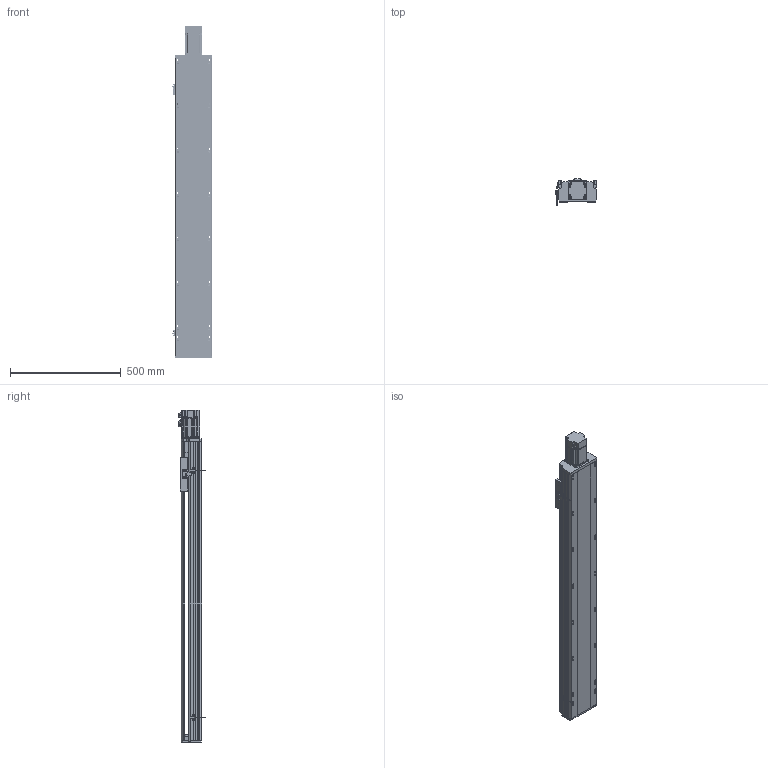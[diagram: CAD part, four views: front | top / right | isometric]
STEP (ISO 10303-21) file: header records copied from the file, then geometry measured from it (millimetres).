
FILE_DESCRIPTION (( 'STEP AP214' ), '1' );
FILE_NAME ('CTH170-1100.STEP', '2019-11-25T09:04:06', ( '微软用户' ), ( '微软中国' ), 'SwSTEP 2.0', 'SolidWorks 2017', '' );
FILE_SCHEMA (( 'AUTOMOTIVE_DESIGN' ));
Length unit declared in the file: millimetre
Products named in the file (32): M5-L20囀鞠褒蹟佪-BR L; M4-L10囀鞠褒蹟佪-BR L; M5-L10囀鞠褒蹟佪; 坶踡蹟簽M15x1; EGH20CA_BLOCK; 潔路遠COL15-A; EG20_RAIL; MISUMI_B7002-DB_盄俶絳砃粣; 170賑怢; BEARING_MISUMI_B7002-DB_盄俶絳砃粣; 170裔啣^CTH170-L10-200; 錨璃8^蚾饜极3_CTH170-L10-200; 錨璃2; 复件 轴承座^装配体3_CTH170-L10-200; 佪話盓傅釱^CTH170-L10-200; CTH170-1100; M5-L16囀鞠褒蹟佪; 遣喳蝶15x12x8-BR L; 支撑座^丝杠支撑座_CTH170-L10-200; B6002Z; _C-BSST2005_n; SFS2005-411-SZC; SFH2010佪裝; M3-L8囀鞠褒蹟佪; 80EMA-016A; EE-SX672峚倰換覜ん; 170萇儂啣; CT17耀郪-覜茼んえ; 170傷啣; M6-L20囀鞠褒蹟佪; EGH20CA; 蚾饜极3^CTH170-L10-200
Assembly tree (79 placements, depth 4):
  CTH170-1100
    錨璃2
    170裔啣^CTH170-L10-200
    170賑怢
    EGH20CA  x2
      EG20_RAIL
      EGH20CA_BLOCK
      M5-L10囀鞠褒蹟佪
      M5-L20囀鞠褒蹟佪-BR L
    170傷啣
    170萇儂啣
    80EMA-016A
    SFS2005-411-SZC
      SFH2010佪裝
    _C-BSST2005_n
    佪話盓傅釱^CTH170-L10-200
      B6002Z
      支撑座^丝杠支撑座_CTH170-L10-200
      遣喳蝶15x12x8-BR L  x2
      M5-L16囀鞠褒蹟佪  x2
    蚾饜极3^CTH170-L10-200
      复件 轴承座^装配体3_CTH170-L10-200
      錨璃8^蚾饜极3_CTH170-L10-200
      MISUMI_B7002-DB_盄俶絳砃粣
        BEARING_MISUMI_B7002-DB_盄俶絳砃粣  x2
      潔路遠COL15-A  x2
      坶踡蹟簽M15x1
      M5-L16囀鞠褒蹟佪  x6
      M4-L10囀鞠褒蹟佪-BR L  x4
    遣喳蝶15x12x8-BR L  x2
    M6-L20囀鞠褒蹟佪  x4
    M4-L10囀鞠褒蹟佪-BR L  x10
    M5-L16囀鞠褒蹟佪  x4
    CT17耀郪-覜茼んえ
    EE-SX672峚倰換覜ん  x2
    M3-L8囀鞠褒蹟佪  x4
Bounding box: 183.7 x 117.95 x 1496 mm (x, y, z)
Volume: 8310293.8 mm3; surface area: 2611813.3 mm2
Topology: 91 solids, 92 shells, 5831 faces, 15377 edges, 9796 vertices
Faces by surface type: plane 3150, cylinder 1638, cone 661, bspline 342, torus 40
Entity records: 106390 total; most frequent: CARTESIAN_POINT 22595, ORIENTED_EDGE 15316, DIRECTION 14973, EDGE_CURVE 7658, AXIS2_PLACEMENT_3D 5268, VERTEX_POINT 4980, VECTOR 4437, LINE 4437
